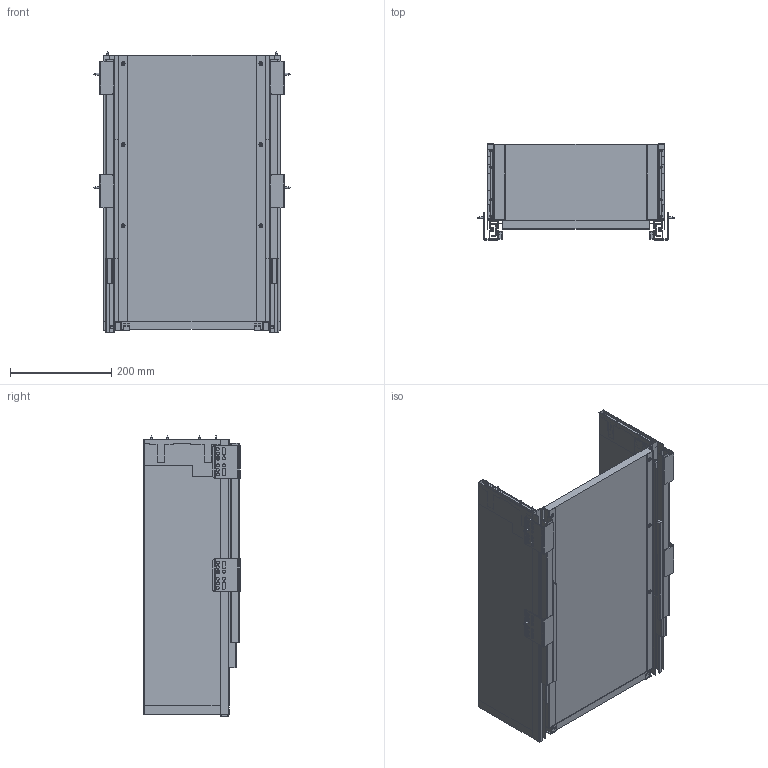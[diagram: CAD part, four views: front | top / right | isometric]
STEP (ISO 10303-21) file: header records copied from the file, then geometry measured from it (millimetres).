
FILE_DESCRIPTION(/* description */ (''),/* implementation_level */ '2;1');
FILE_NAME(/* name */ 'D:\$Workingspace\Designs\Katalog\Cadsoft\GTV Prowadnice\GTV 3D AXISPRO\Model\PB-AXISPRO-KPL550C_C1.stp',/* time_stamp */ '2019-12-16T10:04:48+01:00',/* author */ ('tomaszw'),/* organization */ (''),/* preprocessor_version */ 'ST-DEVELOPER v17.2',/* originating_system */ 'Autodesk Inventor 2019',/* authorisation */ '');
FILE_SCHEMA (('AUTOMOTIVE_DESIGN { 1 0 10303 214 3 1 1 }'));
Products named in the file (1): PB-AXISPRO-KPL550C1-F
Bounding box: 388.6 x 190 x 554.9 mm (x, y, z)
Volume: 3914572.6 mm3; surface area: 1758927 mm2
Topology: 47 solids, 49 shells, 1898 faces, 4966 edges, 3252 vertices
Faces by surface type: plane 1356, cylinder 314, bspline 116, cone 104, sphere 6, torus 2
Full cylindrical faces by diameter (mm): 2 x4, 3.5 x32, 6 x40, 7.5 x26, 7.8 x2, 8.5 x2, 10 x6
Entity records: 59186 total; most frequent: CARTESIAN_POINT 12235, ORIENTED_EDGE 9916, DIRECTION 9044, EDGE_CURVE 4958, LINE 3914, VECTOR 3914, VERTEX_POINT 3252, AXIS2_PLACEMENT_3D 2565
